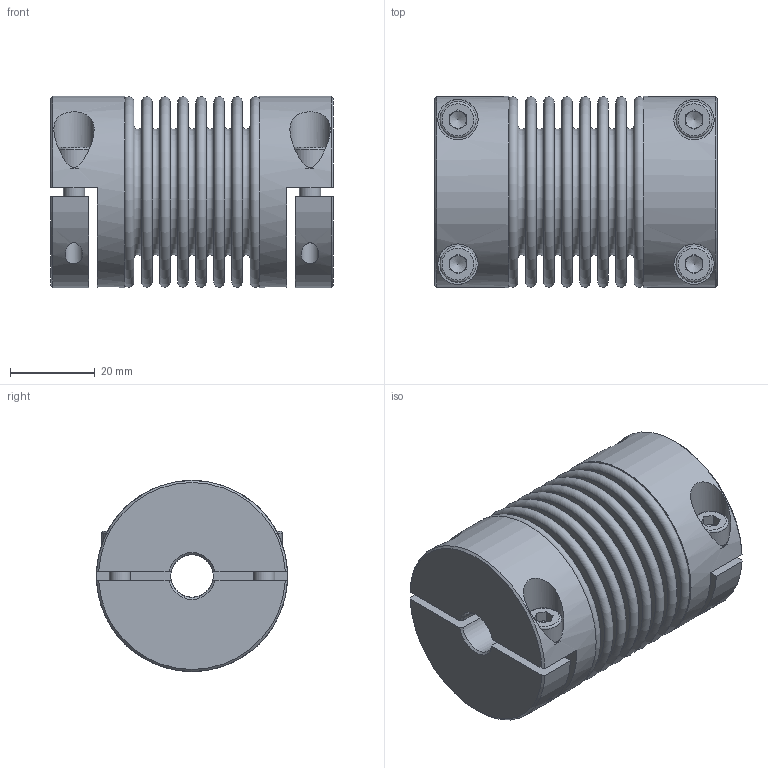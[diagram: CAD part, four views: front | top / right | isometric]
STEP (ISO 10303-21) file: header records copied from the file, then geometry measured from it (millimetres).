
FILE_DESCRIPTION( ( 'Unknown' ), '1' );
FILE_NAME( 'C:/Users/skarpstein/Desktop/KB4HC/KB4HC-18-66.stp', 'Unknown', ( 'Unknown' ), ( 'Unknown' ), 'PSStep 16.0.42', 'Unknown', ' ' );
FILE_SCHEMA( ( 'AUTOMOTIVE_DESIGN { 1 0 10303 214 1 1 1 1 }' ) );
Length unit declared in the file: millimetre
Products named in the file (5): Assem1; KN4HC-18; Socket Head Cap Screw_DIN_DIN 912 M5 x 16 --- 16N_4; BL18_Standard_1
Assembly tree (9 placements, depth 2):
  Assem1
    KN4HC-18  x2
    KN4HC-18  x2
    Socket Head Cap Screw_DIN_DIN 912 M5 x 16 --- 16N_4  x4
    BL18_Standard_1
Bounding box: 66.58 x 45 x 45 mm (x, y, z)
Volume: 52057.7 mm3; surface area: 52406.9 mm2
Topology: 9 solids, 9 shells, 202 faces, 409 edges, 261 vertices
Faces by surface type: plane 114, torus 40, cylinder 32, cone 16
Full cylindrical faces by diameter (mm): 4.134 x4, 5 x4, 5.3 x4, 8.5 x4, 9.5 x4, 10 x2, 40.4 x2, 41 x2, 45 x2
Entity records: 3950 total; most frequent: CARTESIAN_POINT 725, DIRECTION 494, ORIENTED_EDGE 310, AXIS2_PLACEMENT_3D 227, EDGE_LOOP 208, FACE_OUTER_BOUND 162, EDGE_CURVE 155, VERTEX_POINT 148
